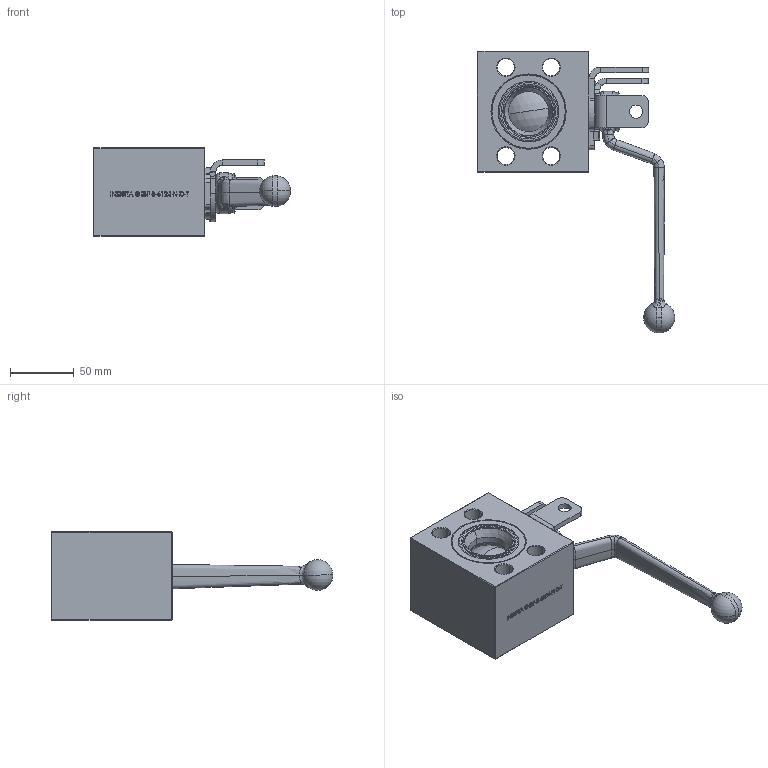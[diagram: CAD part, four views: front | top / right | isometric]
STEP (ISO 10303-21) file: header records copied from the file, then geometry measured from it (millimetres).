
FILE_DESCRIPTION (( 'STEP AP214' ), '1' );
FILE_NAME ('IBF-B-6124-N-D-T Closed.STEP', '2025-12-02T15:20:46', ( '' ), ( '' ), 'SwSTEP 2.0', 'SolidWorks 2023', '' );
FILE_SCHEMA (( 'AUTOMOTIVE_DESIGN' ));
Length unit declared in the file: inch
Products named in the file (1): IBF-B-6124-N-D-T Closed
Bounding box: 155.28 x 221.73 x 69.85 mm (x, y, z)
Volume: 536580.3 mm3; surface area: 117908.3 mm2
Topology: 2 solids, 2 shells, 1057 faces, 2889 edges, 1876 vertices
Faces by surface type: plane 509, bspline 202, cylinder 165, cone 83, torus 72, sphere 26
Entity records: 60438 total; most frequent: CARTESIAN_POINT 35470, ORIENTED_EDGE 5762, DIRECTION 4352, EDGE_CURVE 2881, VERTEX_POINT 1874, AXIS2_PLACEMENT_3D 1476, LINE 1400, VECTOR 1400
